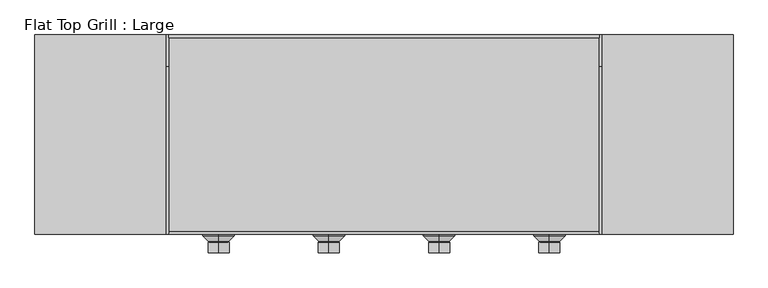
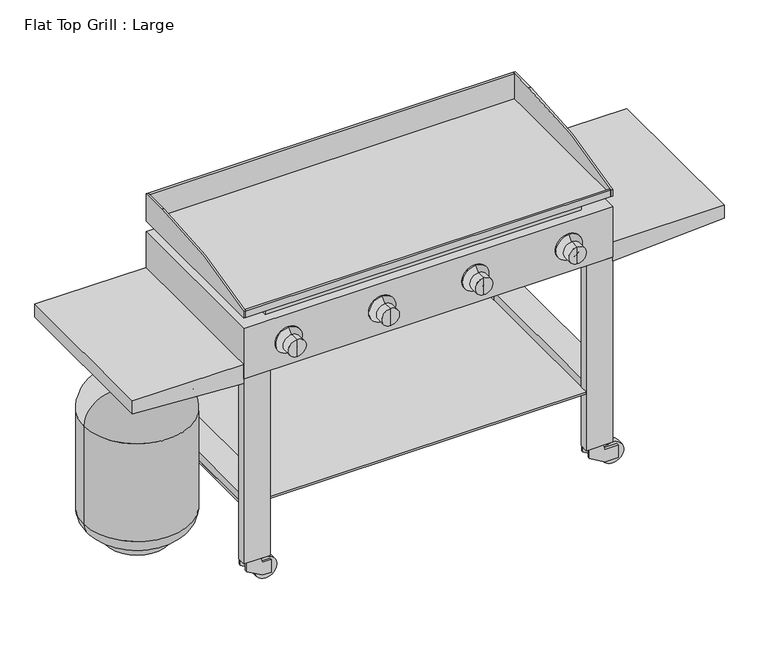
"""IFC4 building model written with IfcOpenShell, lengths in millimetres: proxy geometry, Flat Top Grill : Large."""

from ifc_helpers import new_model, si_unit, point, frame, frame_2d, origin, place, context, project, spatial, polyline, circle_curve, ellipse_curve, trimmed, segment, composite_curve, outline, extrude, source, transform, mapped, element, save
from ifc_brep_helpers import plane_surface, cylinder_surface, revolved_surface, advanced_brep


def flat_top_grill_large_7945bf35(model_context):
    return source(origin(), model_context, "Body", "SolidModel", [
        advanced_brep(
        [(-133.35, -241.3, 749.3), (-133.35, -241.3, 673.1), (-133.35, -241.3, 711.2), (-133.35, -244.475, 749.3), (-133.35, -244.475, 673.1), (-133.35, -258.7625, 735.0125), (-133.35, -258.7625, 687.3875), (-133.35, -260.35, 736.6), (-133.35, -260.35, 685.8), (-133.35, -285.75, 736.6), (-133.35, -285.75, 685.8), (-133.35, -285.75, 711.2)],
        [
            (0, 1, circle_curve(frame((-133.35, -241.3, 711.2), z_axis=(0.0, 1.0, 0.0), x_axis=(0.0, 0.0, -1.0)), 38.1)),
            (1, 2),
            (2, 0),
            (1, 0, circle_curve(frame((-133.35, -241.3, 711.2), z_axis=(0.0, 1.0, 0.0), x_axis=(0.0, 0.0, -1.0)), 38.1)),
            (3, 4, circle_curve(frame((-133.35, -244.475, 711.2), z_axis=(0.0, 1.0, 0.0), x_axis=(0.0, 0.0, -1.0)), 38.1)),
            (4, 1),
            (0, 3),
            (4, 3, circle_curve(frame((-133.35, -244.475, 711.2), z_axis=(0.0, 1.0, 0.0), x_axis=(0.0, 0.0, -1.0)), 38.1)),
            (5, 6, circle_curve(frame((-133.35, -258.7625, 711.2), z_axis=(0.0, 1.0, 0.0), x_axis=(0.0, 0.0, -1.0)), 23.8125)),
            (6, 4),
            (3, 5),
            (6, 5, circle_curve(frame((-133.35, -258.7625, 711.2), z_axis=(0.0, 1.0, 0.0), x_axis=(0.0, 0.0, -1.0)), 23.8125)),
            (7, 8, circle_curve(frame((-133.35, -260.35, 711.2), z_axis=(0.0, 1.0, 0.0), x_axis=(0.0, 0.0, -1.0)), 25.4)),
            (8, 6),
            (5, 7),
            (8, 7, circle_curve(frame((-133.35, -260.35, 711.2), z_axis=(0.0, 1.0, 0.0), x_axis=(0.0, 0.0, -1.0)), 25.4)),
            (9, 10, circle_curve(frame((-133.35, -285.75, 711.2), z_axis=(0.0, 1.0, 0.0), x_axis=(0.0, 0.0, -1.0)), 25.4)),
            (10, 8),
            (7, 9),
            (10, 9, circle_curve(frame((-133.35, -285.75, 711.2), z_axis=(0.0, 1.0, 0.0), x_axis=(0.0, 0.0, -1.0)), 25.4)),
            (11, 10),
            (9, 11),
        ],
        [
            plane_surface(frame((-133.35, -241.3, 711.2), z_axis=(0.0, 1.0, 0.0), x_axis=(0.0, 0.0, -1.0))),
            cylinder_surface(frame((-133.35, -285.75, 711.2), z_axis=(0.0, -1.0, 0.0), x_axis=(0.0, 0.0, -1.0)), 38.1),
            revolved_surface(polyline([(-133.35, -244.475, 673.1), (-133.35, -258.7625, 687.3875)]), (-133.35, -285.75, 711.2), (0.0, -1.0, 0.0)),
            revolved_surface(polyline([(-133.35, -258.7625, 687.3875), (-133.35, -260.35, 685.8)]), (-133.35, -285.75, 711.2), (0.0, -1.0, 0.0)),
            cylinder_surface(frame((-133.35, -285.75, 711.2), z_axis=(0.0, -1.0, 0.0), x_axis=(0.0, 0.0, -1.0)), 25.4),
            plane_surface(frame((-133.35, -285.75, 711.2), z_axis=(0.0, -1.0, 0.0), x_axis=(0.0, 0.0, -1.0))),
        ],
        [
            (0, [[1, 2, 3]]),
            (0, [[4, -3, -2]]),
            (1, [[5, 6, -1, 7]]),
            (1, [[8, -7, -4, -6]]),
            (2, [[9, 10, -5, 11]]),
            (2, [[12, -11, -8, -10]]),
            (3, [[13, 14, -9, 15]]),
            (3, [[16, -15, -12, -14]]),
            (4, [[17, 18, -13, 19]]),
            (4, [[20, -19, -16, -18]]),
            (5, [[21, -17, 22]]),
            (5, [[-22, -20, -21]]),
        ],
    ),
        advanced_brep(
        [(-781.05, 0.0, 76.2), (-603.25, 0.0, 76.2), (-692.15, 0.0, 76.2), (-781.05, 0.0, 111.125), (-603.25, 0.0, 111.125), (-844.55, 0.0, 457.2), (-539.75, 0.0, 457.2), (-539.75, 0.0, 161.925), (-844.55, 0.0, 161.925), (-692.15, 0.0, 533.4), (-615.95, 0.0, 533.4), (-768.35, 0.0, 533.4), (-590.55, 0.0, 111.125), (-793.75, 0.0, 111.125)],
        [
            (0, 1, circle_curve(frame((-692.15, 0.0, 76.2), z_axis=(0.0, 0.0, -1.0), x_axis=(1.0, 0.0, 0.0)), 88.9)),
            (1, 2),
            (2, 0),
            (1, 0, circle_curve(frame((-692.15, 0.0, 76.2), z_axis=(0.0, 0.0, -1.0), x_axis=(1.0, 0.0, 0.0)), 88.9)),
            (3, 4, circle_curve(frame((-692.15, 0.0, 111.125), z_axis=(0.0, 0.0, -1.0), x_axis=(1.0, 0.0, 0.0)), 88.9)),
            (4, 1),
            (0, 3),
            (4, 3, circle_curve(frame((-692.15, 0.0, 111.125), z_axis=(0.0, 0.0, -1.0), x_axis=(1.0, 0.0, 0.0)), 88.9)),
            (5, 6, circle_curve(frame((-692.15, 0.0, 457.2), z_axis=(0.0, 0.0, -1.0), x_axis=(1.0, 0.0, 0.0)), 152.4)),
            (6, 7),
            (7, 8, circle_curve(frame((-692.15, 0.0, 161.925), z_axis=(0.0, 0.0, 1.0), x_axis=(1.0, 0.0, 0.0)), 152.4)),
            (8, 5),
            (6, 5, circle_curve(frame((-692.15, 0.0, 457.2), z_axis=(0.0, 0.0, -1.0), x_axis=(1.0, 0.0, 0.0)), 152.4)),
            (8, 7, circle_curve(frame((-692.15, 0.0, 161.925), z_axis=(0.0, 0.0, 1.0), x_axis=(1.0, 0.0, 0.0)), 152.4)),
            (9, 10),
            (10, 11, circle_curve(frame((-692.15, 0.0, 533.4), z_axis=(0.0, 0.0, 1.0), x_axis=(1.0, 0.0, 0.0)), 76.2)),
            (11, 9),
            (11, 10, circle_curve(frame((-692.15, 0.0, 533.4), z_axis=(0.0, 0.0, 1.0), x_axis=(1.0, 0.0, 0.0)), 76.2)),
            (7, 12, circle_curve(frame((-590.55, 0.0, 161.925), z_axis=(0.0, 1.0, 0.0), x_axis=(1.0, 0.0, 0.0)), 50.8)),
            (12, 13, circle_curve(frame((-692.15, 0.0, 111.125), z_axis=(0.0, 0.0, 1.0), x_axis=(1.0, 0.0, 0.0)), 101.6)),
            (13, 8, circle_curve(frame((-793.75, 0.0, 161.925), z_axis=(0.0, 1.0, 0.0), x_axis=(-1.0, 0.0, 0.0)), 50.8)),
            (13, 12, circle_curve(frame((-692.15, 0.0, 111.125), z_axis=(0.0, 0.0, 1.0), x_axis=(1.0, 0.0, 0.0)), 101.6)),
            (10, 6, circle_curve(frame((-615.95, 0.0, 457.2), z_axis=(0.0, 1.0, 0.0), x_axis=(1.0, 0.0, 0.0)), 76.2)),
            (5, 11, circle_curve(frame((-768.35, 0.0, 457.2), z_axis=(0.0, 1.0, 0.0), x_axis=(-1.0, 0.0, 0.0)), 76.2)),
            (12, 4),
            (3, 13),
        ],
        [
            plane_surface(frame((-692.15, 0.0, 76.2), z_axis=(0.0, 0.0, -1.0), x_axis=(1.0, 0.0, 0.0))),
            cylinder_surface(frame((-692.15, 0.0, 50.8), z_axis=(0.0, 0.0, 1.0), x_axis=(1.0, 0.0, 0.0)), 88.9),
            cylinder_surface(frame((-692.15, 0.0, 50.8), z_axis=(0.0, 0.0, 1.0), x_axis=(1.0, 0.0, 0.0)), 152.4),
            plane_surface(frame((-692.15, 0.0, 533.4), z_axis=(0.0, 0.0, 1.0), x_axis=(1.0, 0.0, 0.0))),
            revolved_surface(trimmed(ellipse_curve(frame((-590.55, 0.0, 161.925), z_axis=(0.0, -1.0, 0.0), x_axis=(1.0, 0.0, 0.0)), 50.8, 50.8), [point((-590.55, 0.0, 111.125))], [point((-539.75, 0.0, 161.925))], True, "CARTESIAN"), (-692.15, 0.0, 50.8), (0.0, 0.0, 1.0)),
            revolved_surface(trimmed(ellipse_curve(frame((-615.95, 0.0, 457.2), z_axis=(0.0, -1.0, 0.0), x_axis=(1.0, 0.0, 0.0)), 76.2, 76.2), [point((-539.75, 0.0, 457.2))], [point((-615.95, 0.0, 533.4))], True, "CARTESIAN"), (-692.15, 0.0, 50.8), (0.0, 0.0, 1.0)),
            plane_surface(frame((-692.15, 0.0, 111.125), z_axis=(0.0, 0.0, -1.0), x_axis=(1.0, 0.0, 0.0))),
        ],
        [
            (0, [[1, 2, 3]]),
            (0, [[4, -3, -2]]),
            (1, [[5, 6, -1, 7]]),
            (1, [[8, -7, -4, -6]]),
            (2, [[9, 10, 11, 12]]),
            (2, [[13, -12, 14, -10]]),
            (3, [[15, 16, 17]]),
            (3, [[-17, 18, -15]]),
            (4, [[-11, 19, 20, 21]]),
            (4, [[-14, -21, 22, -19]]),
            (5, [[-16, 23, -9, 24]]),
            (5, [[-18, -24, -13, -23]]),
            (6, [[-20, 25, -5, 26]]),
            (6, [[-22, -26, -8, -25]]),
        ],
    ),
        extrude(outline(composite_curve([segment(trimmed(circle_curve(frame_2d((-692.15, 0.0)), 76.2), [point((-746.0315367, -53.8815367))], [point((-638.2684633, -53.8815367))], False, "CARTESIAN"), True, "CONTINUOUS"), segment(polyline([(-638.2684633, -53.8815367), (-641.6360593, -50.5139407)]), True, "CONTINUOUS"), segment(trimmed(circle_curve(frame_2d((-692.15, 0.0)), 71.4375), [point((-641.6360593, -50.5139407))], [point((-742.6639407, -50.5139407))], True, "CARTESIAN"), True, "CONTINUOUS"), segment(polyline([(-742.6639407, -50.5139407), (-746.0315367, -53.8815367)]), True, "CONTINUOUS")], self_intersect=False)), frame((0.0, 0.0, 533.4), z_axis=(0.0, 0.0, 1.0), x_axis=(1.0, 0.0, 0.0)), (0.0, 0.0, 1.0), 50.8),
        advanced_brep(
        [(-723.9, 0.0, 571.5), (-660.4, 0.0, 571.5), (-660.4, 0.0, 565.15), (-723.9, 0.0, 565.15), (-692.15, 0.0, 571.5), (-701.675, 0.0, 533.4), (-682.625, 0.0, 533.4), (-692.15, 0.0, 533.4), (-701.675, 0.0, 565.15), (-682.625, 0.0, 565.15)],
        [
            (0, 1, circle_curve(frame((-692.15, 0.0, 571.5), z_axis=(0.0, 0.0, -1.0), x_axis=(1.0, 0.0, 0.0)), 31.75)),
            (1, 2),
            (2, 3, circle_curve(frame((-692.15, 0.0, 565.15), z_axis=(0.0, 0.0, 1.0), x_axis=(1.0, 0.0, 0.0)), 31.75)),
            (3, 0),
            (1, 0, circle_curve(frame((-692.15, 0.0, 571.5), z_axis=(0.0, 0.0, -1.0), x_axis=(1.0, 0.0, 0.0)), 31.75)),
            (3, 2, circle_curve(frame((-692.15, 0.0, 565.15), z_axis=(0.0, 0.0, 1.0), x_axis=(1.0, 0.0, 0.0)), 31.75)),
            (4, 1),
            (0, 4),
            (5, 6, circle_curve(frame((-692.15, 0.0, 533.4), z_axis=(0.0, 0.0, -1.0), x_axis=(1.0, 0.0, 0.0)), 9.525)),
            (6, 7),
            (7, 5),
            (6, 5, circle_curve(frame((-692.15, 0.0, 533.4), z_axis=(0.0, 0.0, -1.0), x_axis=(1.0, 0.0, 0.0)), 9.525)),
            (8, 9, circle_curve(frame((-692.15, 0.0, 565.15), z_axis=(0.0, 0.0, -1.0), x_axis=(1.0, 0.0, 0.0)), 9.525)),
            (9, 6),
            (5, 8),
            (9, 8, circle_curve(frame((-692.15, 0.0, 565.15), z_axis=(0.0, 0.0, -1.0), x_axis=(1.0, 0.0, 0.0)), 9.525)),
            (2, 9),
            (8, 3),
        ],
        [
            cylinder_surface(frame((-692.15, 0.0, 508.0), z_axis=(0.0, 0.0, 1.0), x_axis=(1.0, 0.0, 0.0)), 31.75),
            plane_surface(frame((-692.15, 0.0, 571.5), z_axis=(0.0, 0.0, 1.0), x_axis=(1.0, 0.0, 0.0))),
            plane_surface(frame((-692.15, 0.0, 533.4), z_axis=(0.0, 0.0, -1.0), x_axis=(1.0, 0.0, 0.0))),
            cylinder_surface(frame((-692.15, 0.0, 508.0), z_axis=(0.0, 0.0, 1.0), x_axis=(1.0, 0.0, 0.0)), 9.525),
            plane_surface(frame((-692.15, 0.0, 565.15), z_axis=(0.0, 0.0, -1.0), x_axis=(1.0, 0.0, 0.0))),
        ],
        [
            (0, [[1, 2, 3, 4]]),
            (0, [[5, -4, 6, -2]]),
            (1, [[7, -1, 8]]),
            (1, [[-8, -5, -7]]),
            (2, [[9, 10, 11]]),
            (2, [[12, -11, -10]]),
            (3, [[13, 14, -9, 15]]),
            (3, [[16, -15, -12, -14]]),
            (4, [[-3, 17, -13, 18]]),
            (4, [[-6, -18, -16, -17]]),
        ],
    ),
        advanced_brep(
        [(133.35, -241.3, 749.3), (133.35, -241.3, 673.1), (133.35, -241.3, 711.2), (133.35, -244.475, 749.3), (133.35, -244.475, 673.1), (133.35, -258.7625, 735.0125), (133.35, -258.7625, 687.3875), (133.35, -260.35, 736.6), (133.35, -260.35, 685.8), (133.35, -285.75, 736.6), (133.35, -285.75, 685.8), (133.35, -285.75, 711.2)],
        [
            (0, 1, circle_curve(frame((133.35, -241.3, 711.2), z_axis=(0.0, 1.0, 0.0), x_axis=(0.0, 0.0, -1.0)), 38.1)),
            (1, 2),
            (2, 0),
            (1, 0, circle_curve(frame((133.35, -241.3, 711.2), z_axis=(0.0, 1.0, 0.0), x_axis=(0.0, 0.0, -1.0)), 38.1)),
            (3, 4, circle_curve(frame((133.35, -244.475, 711.2), z_axis=(0.0, 1.0, 0.0), x_axis=(0.0, 0.0, -1.0)), 38.1)),
            (4, 1),
            (0, 3),
            (4, 3, circle_curve(frame((133.35, -244.475, 711.2), z_axis=(0.0, 1.0, 0.0), x_axis=(0.0, 0.0, -1.0)), 38.1)),
            (5, 6, circle_curve(frame((133.35, -258.7625, 711.2), z_axis=(0.0, 1.0, 0.0), x_axis=(0.0, 0.0, -1.0)), 23.8125)),
            (6, 4),
            (3, 5),
            (6, 5, circle_curve(frame((133.35, -258.7625, 711.2), z_axis=(0.0, 1.0, 0.0), x_axis=(0.0, 0.0, -1.0)), 23.8125)),
            (7, 8, circle_curve(frame((133.35, -260.35, 711.2), z_axis=(0.0, 1.0, 0.0), x_axis=(0.0, 0.0, -1.0)), 25.4)),
            (8, 6),
            (5, 7),
            (8, 7, circle_curve(frame((133.35, -260.35, 711.2), z_axis=(0.0, 1.0, 0.0), x_axis=(0.0, 0.0, -1.0)), 25.4)),
            (9, 10, circle_curve(frame((133.35, -285.75, 711.2), z_axis=(0.0, 1.0, 0.0), x_axis=(0.0, 0.0, -1.0)), 25.4)),
            (10, 8),
            (7, 9),
            (10, 9, circle_curve(frame((133.35, -285.75, 711.2), z_axis=(0.0, 1.0, 0.0), x_axis=(0.0, 0.0, -1.0)), 25.4)),
            (11, 10),
            (9, 11),
        ],
        [
            plane_surface(frame((133.35, -241.3, 711.2), z_axis=(0.0, 1.0, 0.0), x_axis=(0.0, 0.0, -1.0))),
            cylinder_surface(frame((133.35, -285.75, 711.2), z_axis=(0.0, -1.0, 0.0), x_axis=(0.0, 0.0, -1.0)), 38.1),
            revolved_surface(polyline([(133.35, -244.475, 673.1), (133.35, -258.7625, 687.3875)]), (133.35, -285.75, 711.2), (0.0, -1.0, 0.0)),
            revolved_surface(polyline([(133.35, -258.7625, 687.3875), (133.35, -260.35, 685.8)]), (133.35, -285.75, 711.2), (0.0, -1.0, 0.0)),
            cylinder_surface(frame((133.35, -285.75, 711.2), z_axis=(0.0, -1.0, 0.0), x_axis=(0.0, 0.0, -1.0)), 25.4),
            plane_surface(frame((133.35, -285.75, 711.2), z_axis=(0.0, -1.0, 0.0), x_axis=(0.0, 0.0, -1.0))),
        ],
        [
            (0, [[1, 2, 3]]),
            (0, [[4, -3, -2]]),
            (1, [[5, 6, -1, 7]]),
            (1, [[8, -7, -4, -6]]),
            (2, [[9, 10, -5, 11]]),
            (2, [[12, -11, -8, -10]]),
            (3, [[13, 14, -9, 15]]),
            (3, [[16, -15, -12, -14]]),
            (4, [[17, 18, -13, 19]]),
            (4, [[20, -19, -16, -18]]),
            (5, [[21, -17, 22]]),
            (5, [[-22, -20, -21]]),
        ],
    ),
        advanced_brep(
        [(-400.05, -241.3, 749.3), (-400.05, -241.3, 673.1), (-400.05, -241.3, 711.2), (-400.05, -244.475, 749.3), (-400.05, -244.475, 673.1), (-400.05, -258.7625, 735.0125), (-400.05, -258.7625, 687.3875), (-400.05, -260.35, 736.6), (-400.05, -260.35, 685.8), (-400.05, -285.75, 736.6), (-400.05, -285.75, 685.8), (-400.05, -285.75, 711.2)],
        [
            (0, 1, circle_curve(frame((-400.05, -241.3, 711.2), z_axis=(0.0, 1.0, 0.0), x_axis=(0.0, 0.0, -1.0)), 38.1)),
            (1, 2),
            (2, 0),
            (1, 0, circle_curve(frame((-400.05, -241.3, 711.2), z_axis=(0.0, 1.0, 0.0), x_axis=(0.0, 0.0, -1.0)), 38.1)),
            (3, 4, circle_curve(frame((-400.05, -244.475, 711.2), z_axis=(0.0, 1.0, 0.0), x_axis=(0.0, 0.0, -1.0)), 38.1)),
            (4, 1),
            (0, 3),
            (4, 3, circle_curve(frame((-400.05, -244.475, 711.2), z_axis=(0.0, 1.0, 0.0), x_axis=(0.0, 0.0, -1.0)), 38.1)),
            (5, 6, circle_curve(frame((-400.05, -258.7625, 711.2), z_axis=(0.0, 1.0, 0.0), x_axis=(0.0, 0.0, -1.0)), 23.8125)),
            (6, 4),
            (3, 5),
            (6, 5, circle_curve(frame((-400.05, -258.7625, 711.2), z_axis=(0.0, 1.0, 0.0), x_axis=(0.0, 0.0, -1.0)), 23.8125)),
            (7, 8, circle_curve(frame((-400.05, -260.35, 711.2), z_axis=(0.0, 1.0, 0.0), x_axis=(0.0, 0.0, -1.0)), 25.4)),
            (8, 6),
            (5, 7),
            (8, 7, circle_curve(frame((-400.05, -260.35, 711.2), z_axis=(0.0, 1.0, 0.0), x_axis=(0.0, 0.0, -1.0)), 25.4)),
            (9, 10, circle_curve(frame((-400.05, -285.75, 711.2), z_axis=(0.0, 1.0, 0.0), x_axis=(0.0, 0.0, -1.0)), 25.4)),
            (10, 8),
            (7, 9),
            (10, 9, circle_curve(frame((-400.05, -285.75, 711.2), z_axis=(0.0, 1.0, 0.0), x_axis=(0.0, 0.0, -1.0)), 25.4)),
            (11, 10),
            (9, 11),
        ],
        [
            plane_surface(frame((-400.05, -241.3, 711.2), z_axis=(0.0, 1.0, 0.0), x_axis=(0.0, 0.0, -1.0))),
            cylinder_surface(frame((-400.05, -285.75, 711.2), z_axis=(0.0, -1.0, 0.0), x_axis=(0.0, 0.0, -1.0)), 38.1),
            revolved_surface(polyline([(-400.05, -244.475, 673.1), (-400.05, -258.7625, 687.3875)]), (-400.05, -285.75, 711.2), (0.0, -1.0, 0.0)),
            revolved_surface(polyline([(-400.05, -258.7625, 687.3875), (-400.05, -260.35, 685.8)]), (-400.05, -285.75, 711.2), (0.0, -1.0, 0.0)),
            cylinder_surface(frame((-400.05, -285.75, 711.2), z_axis=(0.0, -1.0, 0.0), x_axis=(0.0, 0.0, -1.0)), 25.4),
            plane_surface(frame((-400.05, -285.75, 711.2), z_axis=(0.0, -1.0, 0.0), x_axis=(0.0, 0.0, -1.0))),
        ],
        [
            (0, [[1, 2, 3]]),
            (0, [[4, -3, -2]]),
            (1, [[5, 6, -1, 7]]),
            (1, [[8, -7, -4, -6]]),
            (2, [[9, 10, -5, 11]]),
            (2, [[12, -11, -8, -10]]),
            (3, [[13, 14, -9, 15]]),
            (3, [[16, -15, -12, -14]]),
            (4, [[17, 18, -13, 19]]),
            (4, [[20, -19, -16, -18]]),
            (5, [[21, -17, 22]]),
            (5, [[-22, -20, -21]]),
        ],
    ),
        advanced_brep(
        [(400.05, -241.3, 749.3), (400.05, -241.3, 673.1), (400.05, -241.3, 711.2), (400.05, -244.475, 749.3), (400.05, -244.475, 673.1), (400.05, -258.7625, 735.0125), (400.05, -258.7625, 687.3875), (400.05, -260.35, 736.6), (400.05, -260.35, 685.8), (400.05, -285.75, 736.6), (400.05, -285.75, 685.8), (400.05, -285.75, 711.2)],
        [
            (0, 1, circle_curve(frame((400.05, -241.3, 711.2), z_axis=(0.0, 1.0, 0.0), x_axis=(0.0, 0.0, -1.0)), 38.1)),
            (1, 2),
            (2, 0),
            (1, 0, circle_curve(frame((400.05, -241.3, 711.2), z_axis=(0.0, 1.0, 0.0), x_axis=(0.0, 0.0, -1.0)), 38.1)),
            (3, 4, circle_curve(frame((400.05, -244.475, 711.2), z_axis=(0.0, 1.0, 0.0), x_axis=(0.0, 0.0, -1.0)), 38.1)),
            (4, 1),
            (0, 3),
            (4, 3, circle_curve(frame((400.05, -244.475, 711.2), z_axis=(0.0, 1.0, 0.0), x_axis=(0.0, 0.0, -1.0)), 38.1)),
            (5, 6, circle_curve(frame((400.05, -258.7625, 711.2), z_axis=(0.0, 1.0, 0.0), x_axis=(0.0, 0.0, -1.0)), 23.8125)),
            (6, 4),
            (3, 5),
            (6, 5, circle_curve(frame((400.05, -258.7625, 711.2), z_axis=(0.0, 1.0, 0.0), x_axis=(0.0, 0.0, -1.0)), 23.8125)),
            (7, 8, circle_curve(frame((400.05, -260.35, 711.2), z_axis=(0.0, 1.0, 0.0), x_axis=(0.0, 0.0, -1.0)), 25.4)),
            (8, 6),
            (5, 7),
            (8, 7, circle_curve(frame((400.05, -260.35, 711.2), z_axis=(0.0, 1.0, 0.0), x_axis=(0.0, 0.0, -1.0)), 25.4)),
            (9, 10, circle_curve(frame((400.05, -285.75, 711.2), z_axis=(0.0, 1.0, 0.0), x_axis=(0.0, 0.0, -1.0)), 25.4)),
            (10, 8),
            (7, 9),
            (10, 9, circle_curve(frame((400.05, -285.75, 711.2), z_axis=(0.0, 1.0, 0.0), x_axis=(0.0, 0.0, -1.0)), 25.4)),
            (11, 10),
            (9, 11),
        ],
        [
            plane_surface(frame((400.05, -241.3, 711.2), z_axis=(0.0, 1.0, 0.0), x_axis=(0.0, 0.0, -1.0))),
            cylinder_surface(frame((400.05, -285.75, 711.2), z_axis=(0.0, -1.0, 0.0), x_axis=(0.0, 0.0, -1.0)), 38.1),
            revolved_surface(polyline([(400.05, -244.475, 673.1), (400.05, -258.7625, 687.3875)]), (400.05, -285.75, 711.2), (0.0, -1.0, 0.0)),
            revolved_surface(polyline([(400.05, -258.7625, 687.3875), (400.05, -260.35, 685.8)]), (400.05, -285.75, 711.2), (0.0, -1.0, 0.0)),
            cylinder_surface(frame((400.05, -285.75, 711.2), z_axis=(0.0, -1.0, 0.0), x_axis=(0.0, 0.0, -1.0)), 25.4),
            plane_surface(frame((400.05, -285.75, 711.2), z_axis=(0.0, -1.0, 0.0), x_axis=(0.0, 0.0, -1.0))),
        ],
        [
            (0, [[1, 2, 3]]),
            (0, [[4, -3, -2]]),
            (1, [[5, 6, -1, 7]]),
            (1, [[8, -7, -4, -6]]),
            (2, [[9, 10, -5, 11]]),
            (2, [[12, -11, -8, -10]]),
            (3, [[13, 14, -9, 15]]),
            (3, [[16, -15, -12, -14]]),
            (4, [[17, 18, -13, 19]]),
            (4, [[20, -19, -16, -18]]),
            (5, [[21, -17, 22]]),
            (5, [[-22, -20, -21]]),
        ],
    ),
        extrude(outline(polyline([(44.7132195, 463.2983683), (19.05, 507.7483683), (19.05, 545.8483683), (57.15, 545.8483683), (57.15, 507.0060638), (76.2, 501.9016317), (76.2, 463.2983683), (44.7132195, 463.2983683)])), frame((0.0, -234.95, 0.0), z_axis=(0.0, 1.0, 0.0), x_axis=(0.0, 0.0, 1.0)), (0.0, 0.0, 1.0), 6.35),
        extrude(outline(composite_curve([segment(trimmed(circle_curve(frame_2d((31.75, 534.8996612)), 31.75), [point((0.0, 534.8996612))], [point((63.5, 534.8996612))], False, "CARTESIAN"), True, "CONTINUOUS"), segment(trimmed(circle_curve(frame_2d((31.75, 534.8996612)), 31.75), [point((63.5, 534.8996612))], [point((0.0, 534.8996612))], False, "CARTESIAN"), True, "CONTINUOUS")], self_intersect=False)), frame((0.0, -225.552, 0.0), z_axis=(0.0, 1.0, 0.0), x_axis=(0.0, 0.0, 1.0)), (0.0, 0.0, 1.0), 19.304),
        extrude(outline(polyline([(44.7132195, 463.2983683), (19.05, 507.7483683), (19.05, 545.8483683), (57.15, 545.8483683), (57.15, 507.0060638), (76.2, 501.9016317), (76.2, 463.2983683), (44.7132195, 463.2983683)])), frame((0.0, -203.2, 0.0), z_axis=(0.0, 1.0, 0.0), x_axis=(0.0, 0.0, 1.0)), (0.0, 0.0, 1.0), 6.35),
        extrude(outline(polyline([(44.7132195, 463.2983683), (19.05, 507.7483683), (19.05, 545.8483683), (57.15, 545.8483683), (57.15, 507.0060638), (76.2, 501.9016317), (76.2, 463.2983683), (44.7132195, 463.2983683)])), frame((0.0, 228.6, 0.0), z_axis=(0.0, 1.0, 0.0), x_axis=(0.0, 0.0, 1.0)), (0.0, 0.0, 1.0), 6.35),
        extrude(outline(composite_curve([segment(trimmed(circle_curve(frame_2d((31.75, 534.8996612)), 31.75), [point((0.0, 534.8996612))], [point((63.5, 534.8996612))], False, "CARTESIAN"), True, "CONTINUOUS"), segment(trimmed(circle_curve(frame_2d((31.75, 534.8996612)), 31.75), [point((63.5, 534.8996612))], [point((0.0, 534.8996612))], False, "CARTESIAN"), True, "CONTINUOUS")], self_intersect=False)), frame((0.0, 206.248, 0.0), z_axis=(0.0, 1.0, 0.0), x_axis=(0.0, 0.0, 1.0)), (0.0, 0.0, 1.0), 19.304),
        extrude(outline(polyline([(44.7132195, 463.2983683), (19.05, 507.7483683), (19.05, 545.8483683), (57.15, 545.8483683), (57.15, 507.0060638), (76.2, 501.9016317), (76.2, 463.2983683), (44.7132195, 463.2983683)])), frame((0.0, 196.85, 0.0), z_axis=(0.0, 1.0, 0.0), x_axis=(0.0, 0.0, 1.0)), (0.0, 0.0, 1.0), 6.35),
        extrude(outline(polyline([(44.7132195, -514.6016317), (19.05, -470.1516317), (19.05, -444.7516317), (57.15, -444.7516317), (57.15, -470.8939362), (76.2, -475.9983683), (76.2, -514.6016317), (44.7132195, -514.6016317)])), frame((0.0, -234.95, 0.0), z_axis=(0.0, 1.0, 0.0), x_axis=(0.0, 0.0, 1.0)), (0.0, 0.0, 1.0), 6.35),
        extrude(outline(composite_curve([segment(trimmed(circle_curve(frame_2d((31.75, -455.7003388)), 31.75), [point((0.0, -455.7003388))], [point((63.5, -455.7003388))], False, "CARTESIAN"), True, "CONTINUOUS"), segment(trimmed(circle_curve(frame_2d((31.75, -455.7003388)), 31.75), [point((63.5, -455.7003388))], [point((0.0, -455.7003388))], False, "CARTESIAN"), True, "CONTINUOUS")], self_intersect=False)), frame((0.0, -225.552, 0.0), z_axis=(0.0, 1.0, 0.0), x_axis=(0.0, 0.0, 1.0)), (0.0, 0.0, 1.0), 19.304),
        extrude(outline(polyline([(44.7132195, -514.6016317), (19.05, -470.1516317), (19.05, -444.7516317), (57.15, -444.7516317), (57.15, -470.8939362), (76.2, -475.9983683), (76.2, -514.6016317), (44.7132195, -514.6016317)])), frame((0.0, -203.2, 0.0), z_axis=(0.0, 1.0, 0.0), x_axis=(0.0, 0.0, 1.0)), (0.0, 0.0, 1.0), 6.35),
        extrude(outline(polyline([(44.7132195, -514.6016317), (19.05, -470.1516317), (19.05, -444.7516317), (57.15, -444.7516317), (57.15, -470.8939362), (76.2, -475.9983683), (76.2, -514.6016317), (44.7132195, -514.6016317)])), frame((0.0, 228.6, 0.0), z_axis=(0.0, 1.0, 0.0), x_axis=(0.0, 0.0, 1.0)), (0.0, 0.0, 1.0), 6.35),
        extrude(outline(composite_curve([segment(trimmed(circle_curve(frame_2d((31.75, -455.7003388)), 31.75), [point((0.0, -455.7003388))], [point((63.5, -455.7003388))], False, "CARTESIAN"), True, "CONTINUOUS"), segment(trimmed(circle_curve(frame_2d((31.75, -455.7003388)), 31.75), [point((63.5, -455.7003388))], [point((0.0, -455.7003388))], False, "CARTESIAN"), True, "CONTINUOUS")], self_intersect=False)), frame((0.0, 206.248, 0.0), z_axis=(0.0, 1.0, 0.0), x_axis=(0.0, 0.0, 1.0)), (0.0, 0.0, 1.0), 19.304),
        extrude(outline(polyline([(44.7132195, -514.6016317), (19.05, -470.1516317), (19.05, -444.7516317), (57.15, -444.7516317), (57.15, -470.8939362), (76.2, -475.9983683), (76.2, -514.6016317), (44.7132195, -514.6016317)])), frame((0.0, 196.85, 0.0), z_axis=(0.0, 1.0, 0.0), x_axis=(0.0, 0.0, 1.0)), (0.0, 0.0, 1.0), 6.35),
        extrude(outline(polyline([(527.05, 241.3), (527.05, -241.3), (-527.05, -241.3), (-527.05, 241.3), (527.05, 241.3)])), frame((0.0, 0.0, 635.0), z_axis=(0.0, 0.0, 1.0), x_axis=(1.0, 0.0, 0.0)), (0.0, 0.0, 1.0), 152.4),
        extrude(outline(polyline([(679.45, -527.05), (679.45, -844.55), (641.35, -844.55), (622.3, -527.05), (679.45, -527.05)])), frame((0.0, -241.3, 0.0), z_axis=(0.0, 1.0, 0.0), x_axis=(0.0, 0.0, 1.0)), (0.0, 0.0, 1.0), 482.6),
        extrude(outline(polyline([(679.45, 527.05), (622.3, 527.05), (641.35, 844.55), (679.45, 844.55), (679.45, 527.05)])), frame((0.0, -241.3, 0.0), z_axis=(0.0, 1.0, 0.0), x_axis=(0.0, 0.0, 1.0)), (0.0, 0.0, 1.0), 482.6),
        extrude(outline(polyline([(-450.85, 241.3), (-450.85, 215.9), (-527.05, 215.9), (-527.05, 241.3), (-450.85, 241.3)])), frame((0.0, 0.0, 76.2), z_axis=(0.0, 0.0, 1.0), x_axis=(1.0, 0.0, 0.0)), (0.0, 0.0, 1.0), 558.8),
        extrude(outline(polyline([(527.05, 241.3), (527.05, 215.9), (450.85, 215.9), (450.85, 241.3), (527.05, 241.3)])), frame((0.0, 0.0, 76.2), z_axis=(0.0, 0.0, 1.0), x_axis=(1.0, 0.0, 0.0)), (0.0, 0.0, 1.0), 558.8),
        extrude(outline(polyline([(-450.85, -215.9), (-450.85, -241.3), (-527.05, -241.3), (-527.05, -215.9), (-450.85, -215.9)])), frame((0.0, 0.0, 76.2), z_axis=(0.0, 0.0, 1.0), x_axis=(1.0, 0.0, 0.0)), (0.0, 0.0, 1.0), 558.8),
        extrude(outline(polyline([(527.05, -215.9), (527.05, -241.3), (450.85, -241.3), (450.85, -215.9), (527.05, -215.9)])), frame((0.0, 0.0, 76.2), z_axis=(0.0, 0.0, 1.0), x_axis=(1.0, 0.0, 0.0)), (0.0, 0.0, 1.0), 558.8),
        extrude(outline(polyline([(501.65, -196.85), (501.65, -234.95), (463.55, -234.95), (463.55, -196.85), (501.65, -196.85)])), frame((0.0, 0.0, 69.85), z_axis=(0.0, 0.0, 1.0), x_axis=(1.0, 0.0, 0.0)), (0.0, 0.0, 1.0), 6.35),
        extrude(outline(polyline([(501.65, 234.95), (501.65, 196.85), (463.55, 196.85), (463.55, 234.95), (501.65, 234.95)])), frame((0.0, 0.0, 69.85), z_axis=(0.0, 0.0, 1.0), x_axis=(1.0, 0.0, 0.0)), (0.0, 0.0, 1.0), 6.35),
        extrude(outline(polyline([(-514.35, -234.95), (-514.35, -196.85), (-476.25, -196.85), (-476.25, -234.95), (-514.35, -234.95)])), frame((0.0, 0.0, 69.85), z_axis=(0.0, 0.0, 1.0), x_axis=(1.0, 0.0, 0.0)), (0.0, 0.0, 1.0), 6.35),
        extrude(outline(polyline([(-514.35, 196.85), (-514.35, 234.95), (-476.25, 234.95), (-476.25, 196.85), (-514.35, 196.85)])), frame((0.0, 0.0, 69.85), z_axis=(0.0, 0.0, 1.0), x_axis=(1.0, 0.0, 0.0)), (0.0, 0.0, 1.0), 6.35),
        extrude(outline(polyline([(-527.05, 215.9), (-450.85, 215.9), (-450.85, 241.3), (450.85, 241.3), (450.85, 215.9), (527.05, 215.9), (527.05, -215.9), (450.85, -215.9), (450.85, -241.3), (-450.85, -241.3), (-450.85, -215.9), (-527.05, -215.9), (-527.05, 215.9)])), frame((0.0, 0.0, 247.65), z_axis=(0.0, 0.0, 1.0), x_axis=(1.0, 0.0, 0.0)), (0.0, 0.0, 1.0), 6.35),
        extrude(outline(polyline([(-527.05, 215.9), (-450.85, 215.9), (-450.85, -215.9), (-527.05, -215.9), (-527.05, 215.9)])), frame((0.0, 0.0, 254.0), z_axis=(0.0, 0.0, 1.0), x_axis=(1.0, 0.0, 0.0)), (0.0, 0.0, 1.0), 25.4),
        extrude(outline(polyline([(450.85, 215.9), (527.05, 215.9), (527.05, -215.9), (450.85, -215.9), (450.85, 215.9)])), frame((0.0, 0.0, 254.0), z_axis=(0.0, 0.0, 1.0), x_axis=(1.0, 0.0, 0.0)), (0.0, 0.0, 1.0), 25.4),
        extrude(outline(polyline([(-234.95, 838.2), (-234.95, 825.5), (234.95, 825.5), (234.95, 901.7), (241.3, 901.7), (241.3, 819.15), (-241.3, 819.15), (-241.3, 838.2), (-234.95, 838.2)])), frame((-520.7, 0.0, 0.0), z_axis=(1.0, 0.0, 0.0), x_axis=(0.0, 1.0, 0.0)), (0.0, 0.0, 1.0), 1041.4),
        extrude(outline(composite_curve([segment(trimmed(circle_curve(frame_2d((165.1, -430.53)), 1332.23), [point((-241.3, 838.2))], [point((165.1, 901.7))], False, "CARTESIAN"), True, "CONTINUOUS"), segment(polyline([(165.1, 901.7), (241.3, 901.7), (241.3, 819.15), (-241.3, 819.15), (-241.3, 838.2)]), True, "CONTINUOUS")], self_intersect=False)), frame((-527.05, 0.0, 0.0), z_axis=(1.0, 0.0, 0.0), x_axis=(0.0, 1.0, 0.0)), (0.0, 0.0, 1.0), 6.35),
        extrude(outline(composite_curve([segment(trimmed(circle_curve(frame_2d((165.1, -430.53)), 1332.23), [point((-241.3, 838.2))], [point((165.1, 901.7))], False, "CARTESIAN"), True, "CONTINUOUS"), segment(polyline([(165.1, 901.7), (241.3, 901.7), (241.3, 819.15), (-241.3, 819.15), (-241.3, 838.2)]), True, "CONTINUOUS")], self_intersect=False)), frame((520.7, 0.0, 0.0), z_axis=(1.0, 0.0, 0.0), x_axis=(0.0, 1.0, 0.0)), (0.0, 0.0, 1.0), 6.35),
        extrude(outline(polyline([(450.85, 215.9), (450.85, -215.9), (-450.85, -215.9), (-450.85, 215.9), (450.85, 215.9)])), frame((0.0, 0.0, 787.4), z_axis=(0.0, 0.0, 1.0), x_axis=(1.0, 0.0, 0.0)), (0.0, 0.0, 1.0), 31.75),
    ])


if __name__ == "__main__":
    model = new_model("IFC4")
    model_context = context("Model", 3, world=origin())
    ifc_project = project(units=[si_unit("LENGTHUNIT", "METRE", prefix="MILLI")], contexts=[model_context])
    site = spatial("IfcSite", under=ifc_project)
    building = spatial("IfcBuilding", under=site)
    placement = place(None, origin())
    flat_top_grill_large_shape = flat_top_grill_large_7945bf35(model_context)
    element("IfcBuildingElementProxy", 1, Name="Flat Top Grill : Large", ObjectType="Flat Top Grill : Large", at=placement, inside=building, context=model_context, shape_type="MappedRepresentation", body=[
        mapped(flat_top_grill_large_shape, transform((0.0, 0.0, 0.0), x_axis=(1.0, 0.0, 0.0), y_axis=(0.0, 1.0, 0.0), z_axis=(0.0, 0.0, 1.0))),
    ])
    save(model, "model.ifc")
